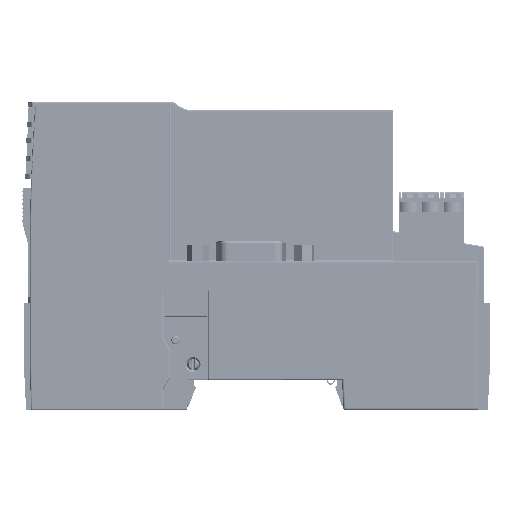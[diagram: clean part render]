
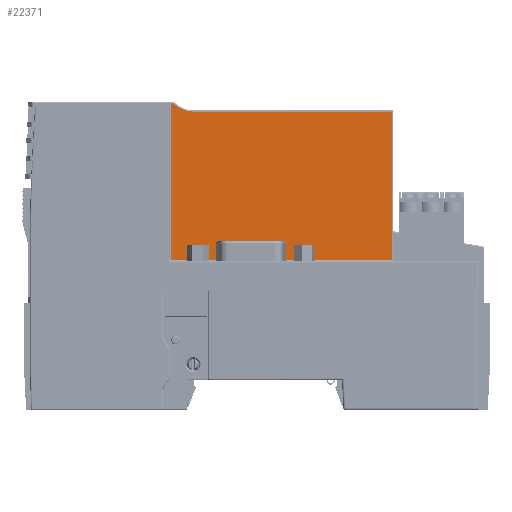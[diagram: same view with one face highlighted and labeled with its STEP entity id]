
A CAD part, left-side view. The second image highlights one B-rep face of the part: STEP entity #22371.
In plain terms, the highlighted planar face has unit normal (-1, 0, 0).
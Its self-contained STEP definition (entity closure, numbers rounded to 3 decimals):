
#7492 = VERTEX_POINT ( 'NONE', #170642 ) ;
#7719 = DIRECTION ( 'NONE',  ( -1., 0., 0. ) ) ;
#10067 = CARTESIAN_POINT ( 'NONE',  ( -10.5, -23.992, 7.3 ) ) ;
#18636 = ORIENTED_EDGE ( 'NONE', *, *, #62352, .F. ) ;
#21047 = EDGE_CURVE ( 'NONE', #240482, #7492, #182413, .T. ) ;
#22371 = ADVANCED_FACE ( 'NONE', ( #258003 ), #192717, .F. ) ;
#22646 = ORIENTED_EDGE ( 'NONE', *, *, #118806, .F. ) ;
#26444 = VECTOR ( 'NONE', #114970, 1000. ) ;
#29923 = CARTESIAN_POINT ( 'NONE',  ( -10.5, 21.047, 43.672 ) ) ;
#31606 = DIRECTION ( 'NONE',  ( 0., -1., 0. ) ) ;
#35888 = ORIENTED_EDGE ( 'NONE', *, *, #21047, .F. ) ;
#36731 = LINE ( 'NONE', #117173, #141918 ) ;
#41344 = LINE ( 'NONE', #175978, #230114 ) ;
#48083 = DIRECTION ( 'NONE',  ( 1., 0., 0. ) ) ;
#55025 = LINE ( 'NONE', #10067, #26444 ) ;
#62352 = EDGE_CURVE ( 'NONE', #189217, #181265, #99928, .T. ) ;
#65360 = EDGE_LOOP ( 'NONE', ( #169345, #142316, #35888, #93938, #18636, #22646 ) ) ;
#71818 = CARTESIAN_POINT ( 'NONE',  ( -10.5, 17., 48.5 ) ) ;
#78144 = CARTESIAN_POINT ( 'NONE',  ( -10.5, 22.2, 7.3 ) ) ;
#85107 = VERTEX_POINT ( 'NONE', #216797 ) ;
#90499 = CARTESIAN_POINT ( 'NONE',  ( -10.5, -29.7, 7.3 ) ) ;
#92998 = CARTESIAN_POINT ( 'NONE',  ( -10.5, 22.5, 41.937 ) ) ;
#93938 = ORIENTED_EDGE ( 'NONE', *, *, #183468, .F. ) ;
#99459 = DIRECTION ( 'NONE',  ( 0., 0., -1. ) ) ;
#99928 = LINE ( 'NONE', #244283, #263477 ) ;
#108592 = AXIS2_PLACEMENT_3D ( 'NONE', #213134, #154544, #111014 ) ;
#111014 = DIRECTION ( 'NONE',  ( 0., 0.707, 0.707 ) ) ;
#114970 = DIRECTION ( 'NONE',  ( 0., 1., 0. ) ) ;
#117173 = CARTESIAN_POINT ( 'NONE',  ( -10.5, -29.7, 44.5 ) ) ;
#118806 = EDGE_CURVE ( 'NONE', #210612, #189217, #55025, .T. ) ;
#141918 = VECTOR ( 'NONE', #99459, 1000. ) ;
#142316 = ORIENTED_EDGE ( 'NONE', *, *, #182267, .F. ) ;
#154544 = DIRECTION ( 'NONE',  ( 1., 0., 0. ) ) ;
#169306 = AXIS2_PLACEMENT_3D ( 'NONE', #71818, #7719, #194381 ) ;
#169345 = ORIENTED_EDGE ( 'NONE', *, *, #186245, .F. ) ;
#170642 = CARTESIAN_POINT ( 'NONE',  ( -10.5, 17., 42.2 ) ) ;
#175172 = AXIS2_PLACEMENT_3D ( 'NONE', #92998, #48083, #240030 ) ;
#175978 = CARTESIAN_POINT ( 'NONE',  ( -10.5, -16.875, 42.2 ) ) ;
#181265 = VERTEX_POINT ( 'NONE', #227244 ) ;
#181615 = DIRECTION ( 'NONE',  ( 0., 0., 1. ) ) ;
#182267 = EDGE_CURVE ( 'NONE', #7492, #85107, #41344, .T. ) ;
#182413 = CIRCLE ( 'NONE', #169306, 6.3 ) ;
#183468 = EDGE_CURVE ( 'NONE', #181265, #240482, #192686, .T. ) ;
#186245 = EDGE_CURVE ( 'NONE', #85107, #210612, #36731, .T. ) ;
#189217 = VERTEX_POINT ( 'NONE', #78144 ) ;
#192686 = CIRCLE ( 'NONE', #175172, 2.263 ) ;
#192717 = PLANE ( 'NONE',  #108592 ) ;
#194381 = DIRECTION ( 'NONE',  ( 0., 0.342, -0.94 ) ) ;
#210612 = VERTEX_POINT ( 'NONE', #90499 ) ;
#213134 = CARTESIAN_POINT ( 'NONE',  ( -10.5, -30., 44.5 ) ) ;
#216797 = CARTESIAN_POINT ( 'NONE',  ( -10.5, -29.7, 42.2 ) ) ;
#227244 = CARTESIAN_POINT ( 'NONE',  ( -10.5, 22.2, 44.18 ) ) ;
#230114 = VECTOR ( 'NONE', #31606, 1000. ) ;
#240030 = DIRECTION ( 'NONE',  ( 0., -0.396, 0.918 ) ) ;
#240482 = VERTEX_POINT ( 'NONE', #29923 ) ;
#244283 = CARTESIAN_POINT ( 'NONE',  ( -10.5, 22.2, 44.5 ) ) ;
#258003 = FACE_OUTER_BOUND ( 'NONE', #65360, .T. ) ;
#263477 = VECTOR ( 'NONE', #181615, 1000. ) ;
